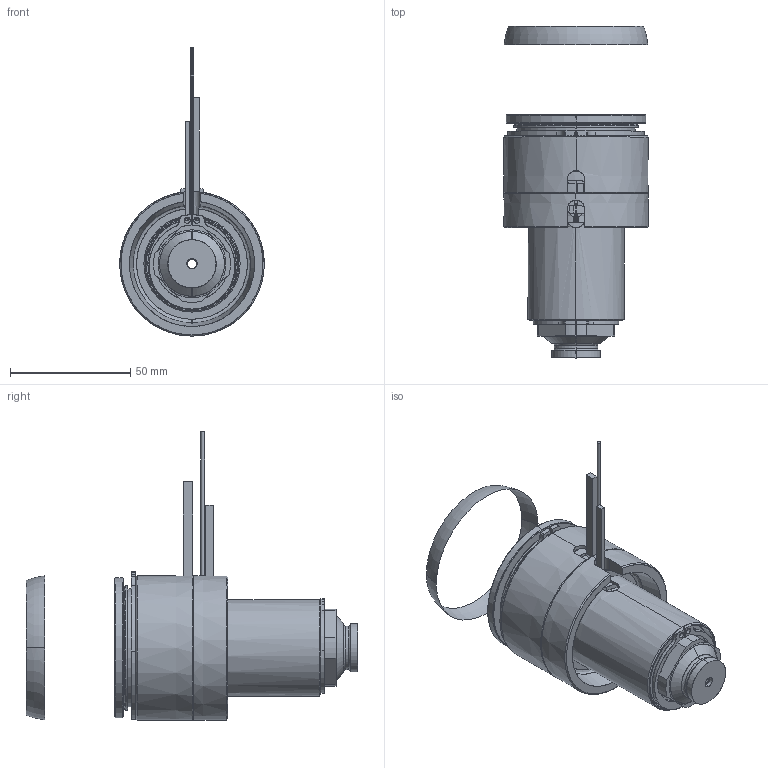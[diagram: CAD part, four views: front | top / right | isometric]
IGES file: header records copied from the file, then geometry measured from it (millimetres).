
Start section: SolidWorks IGES file using analytic representation for surfaces
Global section: file name: C:\Documents and Settings\ws-20\Desktop\TEM\UGER6602-S-A-1 [Øb-3.9 P-0 ØC-15].IGS; native system: SolidWorks 2012; preprocessor: SolidWorks 2012; author: ws-20; date: 120417.115618; units: millimetre
Bounding box: 60 x 137.77 x 119.65 mm (x, y, z)
Surface area: 60055.4 mm2 (no closed solid volume)
Topology: 0 solids, 0 shells, 170 faces, 3386 edges, 3386 vertices
Faces by surface type: revolution 104, bspline 66
